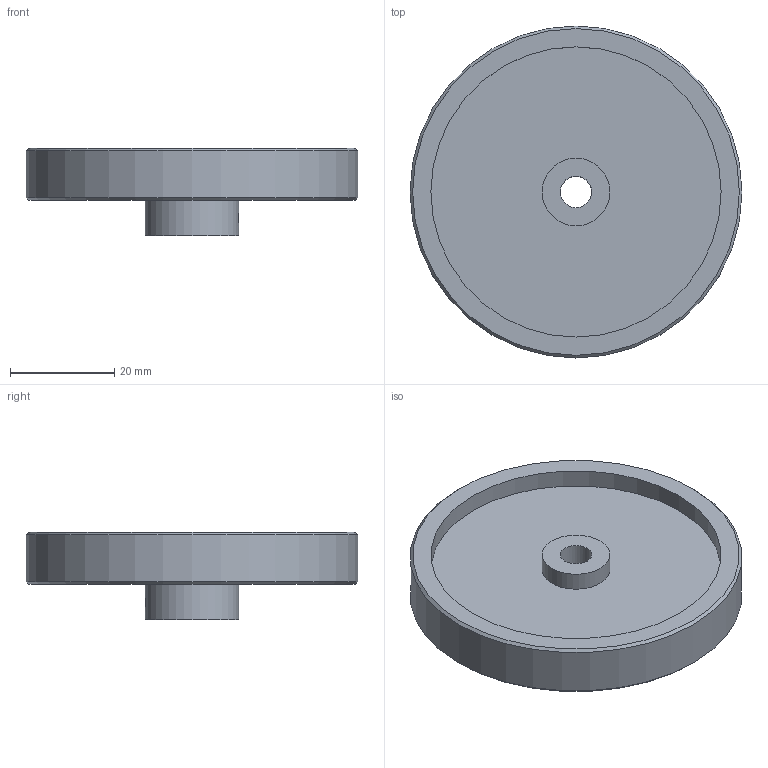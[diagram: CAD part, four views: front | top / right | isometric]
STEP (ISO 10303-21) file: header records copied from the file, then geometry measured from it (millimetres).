
FILE_DESCRIPTION(('Open CASCADE Model'),'2;1');
FILE_NAME('Open CASCADE Shape Model','2026-10-14T11:28:49',('Author'),( 'Open CASCADE'),'Open CASCADE STEP processor 7.9','Open CASCADE 7.9' ,'Unknown');
FILE_SCHEMA(('AUTOMOTIVE_DESIGN { 1 0 10303 214 1 1 1 1 }'));
Length unit declared in the file: millimetre
Products named in the file (1): Open CASCADE STEP translator 7.9 1
Bounding box: 63.66 x 63.66 x 16.78 mm (x, y, z)
Volume: 24920.5 mm3; surface area: 9722.3 mm2
Topology: 1 solids, 1 shells, 14 faces, 29 edges, 18 vertices
Faces by surface type: cylinder 7, plane 5, cone 2
Full cylindrical faces by diameter (mm): 2.5 x2, 6 x1, 13 x1, 18 x1, 55.662 x1, 63.662 x1
Entity records: 1572 total; most frequent: CARTESIAN_POINT 976, DIRECTION 103, ORIENTED_EDGE 58, PCURVE 58, DEFINITIONAL_REPRESENTATION 58, LINE 43, VECTOR 43, EDGE_CURVE 29
